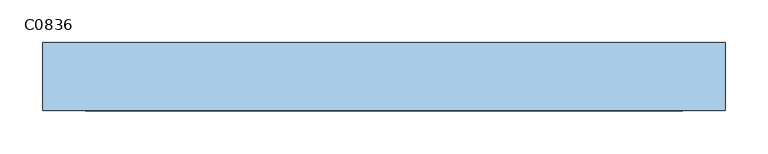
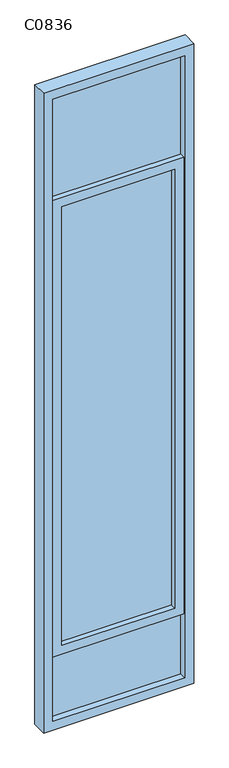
"""IFC4 building model written with IfcOpenShell, lengths in millimetres: window geometry, 组合窗 - 双层单列(固定+推拉) - 副本 : C0836."""

import ifcopenshell
import ifcopenshell.guid

model = None  # the IFC model being written
_history = None  # IfcOwnerHistory: only IFC2X3 demands one
_inside = {}  # id of a spatial element -> (the spatial element, [elements in it])
_under = {}  # id of a project, library or spatial element -> (it, [spatial elements below it])
_declared = {}  # id of a project -> (the project, [libraries it declares])
_typed = {}  # id of a type object -> (the type object, [elements of that type])
_made_of = {}  # id of a material, layer set ... -> (it, [elements and type objects made of it])


def new_model(schema):
    """Start an empty IFC model of exactly this schema.

    Asked for "IFC4X3", IfcOpenShell would pick the latest addendum, in which some entities
    have other attributes; the version numbers below select the first issue.
    IFC2X3 requires an IfcOwnerHistory on every rooted entity: one is made here for all.
    """
    global model, _history
    if schema == "IFC4X3":
        model = ifcopenshell.file(schema_version=(4, 3, 0, 0))
    else:
        model = ifcopenshell.file(schema=schema)
    _inside.clear()
    _under.clear()
    _declared.clear()
    _typed.clear()
    _made_of.clear()
    _history = None
    if model.schema == "IFC2X3":
        org = make("IfcOrganization", Name="unknown")
        user = make(
            "IfcPersonAndOrganization",
            ThePerson=make("IfcPerson", FamilyName="unknown"),
            TheOrganization=org,
        )
        app = make(
            "IfcApplication",
            ApplicationDeveloper=org,
            Version="unknown",
            ApplicationFullName="unknown",
            ApplicationIdentifier="unknown",
        )
        _history = make(
            "IfcOwnerHistory",
            OwningUser=user,
            OwningApplication=app,
            ChangeAction="ADDED",
            CreationDate=0,
        )
    return model


def make(cls, **values):
    """One entity of the class cls with the attributes given. An attribute that is None is left unset."""
    return model.create_entity(
        cls, **{name: value for name, value in values.items() if value is not None}
    )


def rooted(cls, **values):
    """An entity with a GlobalId (a new one), such as an element, a storey or a relation."""
    return make(cls, GlobalId=ifcopenshell.guid.new(), OwnerHistory=_history, **values)


def si_unit(unit_type, name, prefix=None):
    """IfcSIUnit, for example si_unit("LENGTHUNIT", "METRE", prefix="MILLI")."""
    return make("IfcSIUnit", UnitType=unit_type, Prefix=prefix, Name=name)


def assignment(units):
    """IfcUnitAssignment: the units of a project."""
    return None if units is None else make("IfcUnitAssignment", Units=units)


def point(xyz):
    """IfcCartesianPoint."""
    return None if xyz is None else make("IfcCartesianPoint", Coordinates=xyz)


def direction(xyz):
    """IfcDirection."""
    return None if xyz is None else make("IfcDirection", DirectionRatios=xyz)


def frame(location, z_axis=None, x_axis=None):
    """IfcAxis2Placement3D, a coordinate frame: its origin and axes. An axis left out is left unset."""
    return make(
        "IfcAxis2Placement3D",
        Location=point(location),
        Axis=direction(z_axis),
        RefDirection=direction(x_axis),
    )


def origin():
    """The frame at (0, 0, 0) with its axes left unset."""
    return frame((0.0, 0.0, 0.0))


def place(relative_to, where):
    """IfcLocalPlacement: puts the frame where relative to a parent placement (None: the world)."""
    return make(
        "IfcLocalPlacement", PlacementRelTo=relative_to, RelativePlacement=where
    )


def context(
    kind, dimensions, precision=None, world=None, true_north=None, identifier=None
):
    """IfcGeometricRepresentationContext, for example the 3D "Model" context."""
    return make(
        "IfcGeometricRepresentationContext",
        ContextIdentifier=identifier,
        ContextType=kind,
        CoordinateSpaceDimension=dimensions,
        Precision=precision,
        WorldCoordinateSystem=world,
        TrueNorth=true_north,
    )


def project(units=None, contexts=None):
    """IfcProject with its units and contexts."""
    return rooted(
        "IfcProject",
        Name="project",
        RepresentationContexts=contexts,
        UnitsInContext=assignment(units),
    )


def spatial(cls, under=None, at=None, **own):
    """A site, building, storey or space (cls), placed at a placement, below another one or the project."""
    s = rooted(cls, ObjectPlacement=at, **own)
    if under is not None:
        _under.setdefault(under.id(), (under, []))[1].append(s)
    return s


def polyline(points):
    """IfcPolyline through the points."""
    return make("IfcPolyline", Points=[point(p) for p in points])


def outline(outer, holes=None, kind="AREA"):
    """IfcArbitraryClosedProfileDef: a profile drawn as a closed curve; with holes, ...WithVoids."""
    if holes is None:
        return make("IfcArbitraryClosedProfileDef", ProfileType=kind, OuterCurve=outer)
    return make(
        "IfcArbitraryProfileDefWithVoids",
        ProfileType=kind,
        OuterCurve=outer,
        InnerCurves=holes,
    )


def extrude(swept, where, along, depth):
    """IfcExtrudedAreaSolid: the profile swept, set in the frame where, extruded along a direction by depth."""
    return make(
        "IfcExtrudedAreaSolid",
        SweptArea=swept,
        Position=where,
        ExtrudedDirection=direction(along),
        Depth=depth,
    )


def shape(context_of_items, identifier, shape_type, items):
    """IfcShapeRepresentation: the items that make up one representation, for example the "Body"."""
    return make(
        "IfcShapeRepresentation",
        ContextOfItems=context_of_items,
        RepresentationIdentifier=identifier,
        RepresentationType=shape_type,
        Items=items,
    )


def source(mapping_origin, context_of_items, identifier, shape_type, items):
    """IfcRepresentationMap: a shape defined once, which mapped items show again and again."""
    return make(
        "IfcRepresentationMap",
        MappingOrigin=mapping_origin,
        MappedRepresentation=shape(context_of_items, identifier, shape_type, items),
    )


def transform(
    local_origin,
    x_axis=None,
    y_axis=None,
    z_axis=None,
    scale=None,
    scale2=None,
    scale3=None,
    uniform=True,
):
    """IfcCartesianTransformationOperator3D, or its non-uniform kind. x_axis, y_axis, z_axis: its Axis1, 2, 3."""
    if uniform:
        return make(
            "IfcCartesianTransformationOperator3D",
            Axis1=direction(x_axis),
            Axis2=direction(y_axis),
            LocalOrigin=point(local_origin),
            Scale=scale,
            Axis3=direction(z_axis),
        )
    return make(
        "IfcCartesianTransformationOperator3DnonUniform",
        Axis1=direction(x_axis),
        Axis2=direction(y_axis),
        LocalOrigin=point(local_origin),
        Scale=scale,
        Axis3=direction(z_axis),
        Scale2=scale2,
        Scale3=scale3,
    )


def mapped(mapping_source, mapping_target):
    """IfcMappedItem: shows the shape of a source again, moved by a transform."""
    return make(
        "IfcMappedItem", MappingSource=mapping_source, MappingTarget=mapping_target
    )


def made_of(thing, what):
    """Note that an element or type object is made of a material, layer set ...; save() writes the relation."""
    if what is not None:
        _made_of.setdefault(what.id(), (what, []))[1].append(thing)
    return thing


def element(
    cls,
    number,
    at=None,
    inside=None,
    cuts=None,
    type_object=None,
    material=None,
    context=None,
    identifier="Body",
    shape_type=None,
    held_by="IfcProductDefinitionShape",
    body=None,
    shapes=None,
    **own,
):
    """One element of the class cls, such as IfcWall. Its Tag is "e" and its number.

    at: its placement. inside: the storey or other place that contains it. cuts: it is an
    opening in that element (IfcRelVoidsElement). A single representation is given by context,
    identifier, shape_type and body (its items); several are given by shapes. held_by: the class
    of the entity that holds the representations. save() writes the other relations.
    """
    e = rooted(cls, Tag="e%d" % number, ObjectPlacement=at, **own)
    if body is not None:
        shapes = [shape(context, identifier, shape_type, body)]
    if shapes is not None:
        e.Representation = make(held_by, Representations=shapes)
    if inside is not None:
        _inside.setdefault(inside.id(), (inside, []))[1].append(e)
    if cuts is not None:
        rooted(
            "IfcRelVoidsElement", RelatingBuildingElement=cuts, RelatedOpeningElement=e
        )
    if type_object is not None:
        _typed.setdefault(type_object.id(), (type_object, []))[1].append(e)
    return made_of(e, material)


def aggregate(whole, parts):
    """IfcRelAggregates: a whole, such as a stair, and the parts it consists of."""
    return rooted("IfcRelAggregates", RelatingObject=whole, RelatedObjects=parts)


def save(model, path):
    """Write the relations noted so far, then the file.

    IfcRelAggregates (storeys below a building ...), IfcRelContainedInSpatialStructure (elements
    in a storey), IfcRelDefinesByType, IfcRelAssociatesMaterial and IfcRelDeclares: one each for
    every whole, place, type object, material and project.
    """
    for whole, parts in _under.values():
        aggregate(whole, parts)
    for where, things in _inside.values():
        rooted(
            "IfcRelContainedInSpatialStructure",
            RelatedElements=things,
            RelatingStructure=where,
        )
    for kind, things in _typed.values():
        rooted("IfcRelDefinesByType", RelatedObjects=things, RelatingType=kind)
    for what, things in _made_of.values():
        rooted("IfcRelAssociatesMaterial", RelatedObjects=things, RelatingMaterial=what)
    for by, libraries in _declared.values():
        rooted("IfcRelDeclares", RelatingContext=by, RelatedDefinitions=libraries)
    model.write(path)


def c0836_5eae927b(model_context):
    return source(origin(), model_context, "Body", "SweptSolid", [
        extrude(outline(polyline([(350.0, -10.0), (-350.0, -10.0), (-350.0, 0.0), (350.0, 0.0), (350.0, -10.0)])), frame((0.0, 0.0, 950.0), z_axis=(0.0, 0.0, 1.0), x_axis=(1.0, 0.0, 0.0)), (0.0, 0.0, 1.0), 3500.0),
        extrude(outline(polyline([(3875.0, 350.0), (3875.0, -350.0), (1305.0, -350.0), (1305.0, 350.0), (3875.0, 350.0)]), holes=[polyline([(1355.0, 300.0), (1355.0, -300.0), (3825.0, -300.0), (3825.0, 300.0), (1355.0, 300.0)])]), frame((0.0, -40.0, 0.0), z_axis=(0.0, 1.0, 0.0), x_axis=(0.0, 0.0, 1.0)), (0.0, 0.0, 1.0), 30.0),
        extrude(outline(polyline([(4500.0, -400.0), (900.0, -400.0), (900.0, 400.0), (4500.0, 400.0), (4500.0, -400.0)]), holes=[polyline([(4450.0, 350.0), (950.0, 350.0), (950.0, -350.0), (4450.0, -350.0), (4450.0, 350.0)])]), frame((0.0, -45.0, 0.0), z_axis=(0.0, 1.0, 0.0), x_axis=(0.0, 0.0, 1.0)), (0.0, 0.0, 1.0), 80.0),
    ])


if __name__ == "__main__":
    model = new_model("IFC4")
    model_context = context("Model", 3, world=origin())
    ifc_project = project(units=[si_unit("LENGTHUNIT", "METRE", prefix="MILLI")], contexts=[model_context])
    site = spatial("IfcSite", under=ifc_project)
    building = spatial("IfcBuilding", under=site)
    placement = place(None, origin())
    c0836_shape = c0836_5eae927b(model_context)
    element("IfcWindow", 1, ObjectType="组合窗 - 双层单列(固定+推拉) - 副本 : C0836", at=placement, inside=building, context=model_context, shape_type="MappedRepresentation", body=[
        mapped(c0836_shape, transform((0.0, 0.0, 0.0), x_axis=(1.0, 0.0, 0.0), y_axis=(0.0, 1.0, 0.0), z_axis=(0.0, 0.0, 1.0))),
    ])
    save(model, "model.ifc")
